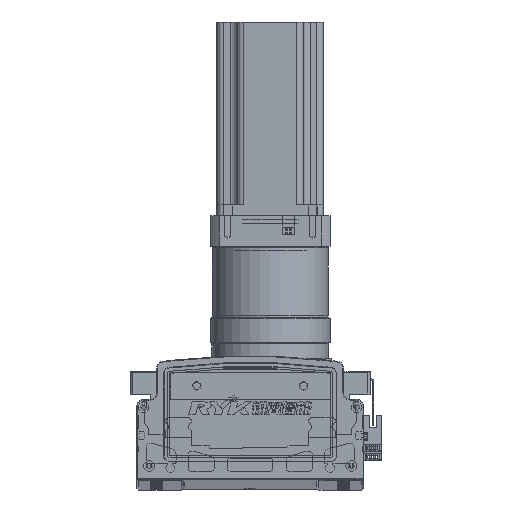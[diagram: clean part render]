
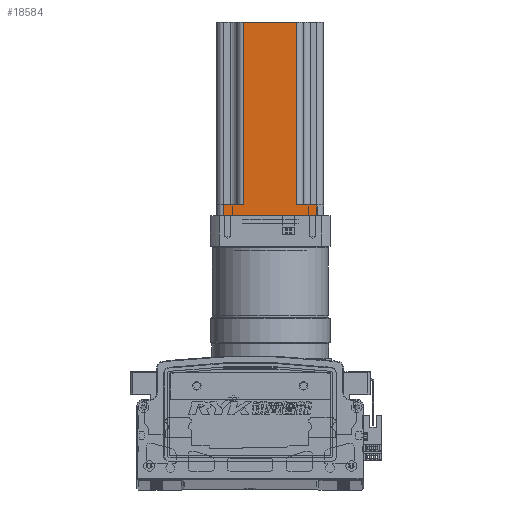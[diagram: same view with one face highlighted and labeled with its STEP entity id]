
A CAD part, top view. The second image highlights one B-rep face of the part: STEP entity #18584.
In plain terms, the highlighted planar face has unit normal (0, 0, 1) as drawn and (0, -1, 0) by its records, which use the part's own axes.
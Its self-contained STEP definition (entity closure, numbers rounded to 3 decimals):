
#3369 = FACE_OUTER_BOUND ( 'NONE', #120117, .T. ) ;
#6526 = CARTESIAN_POINT ( 'NONE',  ( -82.587, -40.37, 0. ) ) ;
#6574 = CARTESIAN_POINT ( 'NONE',  ( -82.587, -40.37, 8. ) ) ;
#8448 = CARTESIAN_POINT ( 'NONE',  ( -12.587, -40.37, 8. ) ) ;
#8451 = CARTESIAN_POINT ( 'NONE',  ( -67.587, -40.37, 8. ) ) ;
#8461 = CARTESIAN_POINT ( 'NONE',  ( -27.587, -40.37, 145. ) ) ;
#15201 = CARTESIAN_POINT ( 'NONE',  ( -67.587, -40.37, 145. ) ) ;
#16514 = CARTESIAN_POINT ( 'NONE',  ( -12.587, -40.37, 0. ) ) ;
#16516 = CARTESIAN_POINT ( 'NONE',  ( -27.587, -40.37, 8. ) ) ;
#18584 = ADVANCED_FACE ( 'NONE', ( #3369 ), #68722, .F. ) ;
#43918 = LINE ( 'NONE', #48522, #43986 ) ;
#43964 = LINE ( 'NONE', #48514, #44047 ) ;
#43974 = LINE ( 'NONE', #48646, #43981 ) ;
#43981 = VECTOR ( 'NONE', #48579, 1000. ) ;
#43986 = VECTOR ( 'NONE', #48507, 1000. ) ;
#43989 = LINE ( 'NONE', #48577, #44066 ) ;
#44008 = LINE ( 'NONE', #48512, #44089 ) ;
#44010 = LINE ( 'NONE', #48483, #44084 ) ;
#44047 = VECTOR ( 'NONE', #48526, 1000. ) ;
#44066 = VECTOR ( 'NONE', #48641, 1000. ) ;
#44084 = VECTOR ( 'NONE', #48489, 1000. ) ;
#44089 = VECTOR ( 'NONE', #48476, 1000. ) ;
#44117 = LINE ( 'NONE', #48906, #44186 ) ;
#44158 = LINE ( 'NONE', #48692, #44193 ) ;
#44186 = VECTOR ( 'NONE', #48868, 1000. ) ;
#44193 = VECTOR ( 'NONE', #48694, 1000. ) ;
#48476 = DIRECTION ( 'NONE',  ( 1., 0., 0. ) ) ;
#48483 = CARTESIAN_POINT ( 'NONE',  ( -87.587, -40.37, 0. ) ) ;
#48489 = DIRECTION ( 'NONE',  ( 1., 0., 0. ) ) ;
#48507 = DIRECTION ( 'NONE',  ( 1., 0., 0. ) ) ;
#48512 = CARTESIAN_POINT ( 'NONE',  ( -87.587, -40.37, 8. ) ) ;
#48514 = CARTESIAN_POINT ( 'NONE',  ( -82.587, -40.37, 145. ) ) ;
#48522 = CARTESIAN_POINT ( 'NONE',  ( -7.587, -40.37, 8. ) ) ;
#48526 = DIRECTION ( 'NONE',  ( 0., 0., -1. ) ) ;
#48577 = CARTESIAN_POINT ( 'NONE',  ( -67.587, -40.37, 145. ) ) ;
#48579 = DIRECTION ( 'NONE',  ( 1., 0., 0. ) ) ;
#48641 = DIRECTION ( 'NONE',  ( 0., 0., -1. ) ) ;
#48646 = CARTESIAN_POINT ( 'NONE',  ( -87.587, -40.37, 145. ) ) ;
#48692 = CARTESIAN_POINT ( 'NONE',  ( -12.587, -40.37, 145. ) ) ;
#48694 = DIRECTION ( 'NONE',  ( 0., 0., 1. ) ) ;
#48868 = DIRECTION ( 'NONE',  ( 0., 0., 1. ) ) ;
#48906 = CARTESIAN_POINT ( 'NONE',  ( -27.587, -40.37, 145. ) ) ;
#62954 = EDGE_CURVE ( 'NONE', #74933, #114987, #43918, .T. ) ;
#62960 = EDGE_CURVE ( 'NONE', #115145, #114990, #44008, .T. ) ;
#62962 = EDGE_CURVE ( 'NONE', #115145, #115084, #43964, .T. ) ;
#62982 = EDGE_CURVE ( 'NONE', #115084, #74948, #44010, .T. ) ;
#63018 = EDGE_CURVE ( 'NONE', #74956, #114990, #43989, .T. ) ;
#63020 = EDGE_CURVE ( 'NONE', #74956, #114978, #43974, .T. ) ;
#63061 = EDGE_CURVE ( 'NONE', #74948, #114987, #44158, .T. ) ;
#63078 = EDGE_CURVE ( 'NONE', #74933, #114978, #44117, .T. ) ;
#68722 = PLANE ( 'NONE',  #114812 ) ;
#68736 = DIRECTION ( 'NONE',  ( -1., 0., 0. ) ) ;
#68748 = DIRECTION ( 'NONE',  ( 0., 1., 0. ) ) ;
#68781 = CARTESIAN_POINT ( 'NONE',  ( -87.587, -40.37, 145. ) ) ;
#74933 = VERTEX_POINT ( 'NONE', #16516 ) ;
#74948 = VERTEX_POINT ( 'NONE', #16514 ) ;
#74956 = VERTEX_POINT ( 'NONE', #15201 ) ;
#85093 = ORIENTED_EDGE ( 'NONE', *, *, #63061, .T. ) ;
#85101 = ORIENTED_EDGE ( 'NONE', *, *, #63020, .F. ) ;
#85128 = ORIENTED_EDGE ( 'NONE', *, *, #62960, .F. ) ;
#85180 = ORIENTED_EDGE ( 'NONE', *, *, #62962, .T. ) ;
#85204 = ORIENTED_EDGE ( 'NONE', *, *, #62982, .T. ) ;
#85212 = ORIENTED_EDGE ( 'NONE', *, *, #63078, .T. ) ;
#85321 = ORIENTED_EDGE ( 'NONE', *, *, #63018, .T. ) ;
#85473 = ORIENTED_EDGE ( 'NONE', *, *, #62954, .F. ) ;
#114812 = AXIS2_PLACEMENT_3D ( 'NONE', #68781, #68748, #68736 ) ;
#114978 = VERTEX_POINT ( 'NONE', #8461 ) ;
#114987 = VERTEX_POINT ( 'NONE', #8448 ) ;
#114990 = VERTEX_POINT ( 'NONE', #8451 ) ;
#115084 = VERTEX_POINT ( 'NONE', #6526 ) ;
#115145 = VERTEX_POINT ( 'NONE', #6574 ) ;
#120117 = EDGE_LOOP ( 'NONE', ( #85128, #85180, #85204, #85093, #85473, #85212, #85101, #85321 ) ) ;
